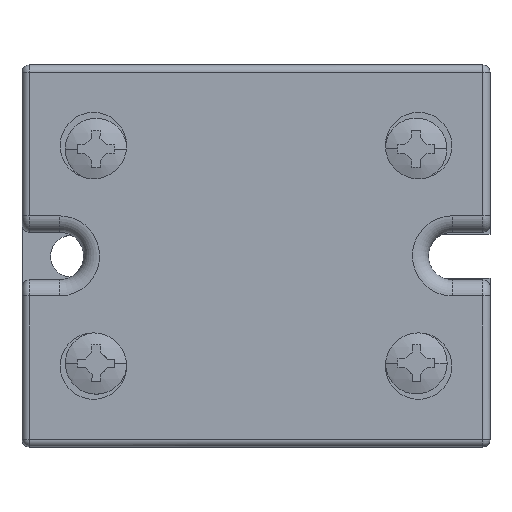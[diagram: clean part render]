
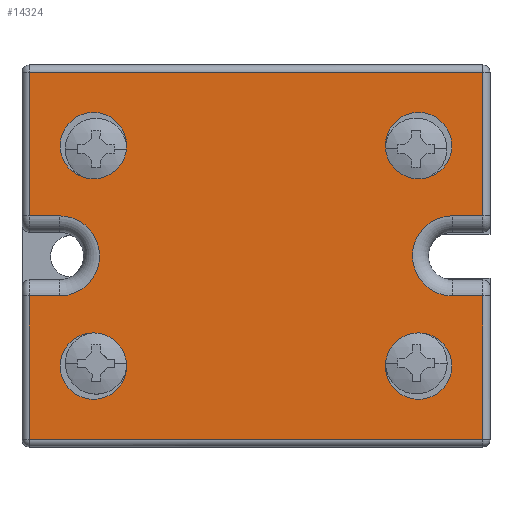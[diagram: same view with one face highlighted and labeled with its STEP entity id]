
A CAD part, top view. The second image highlights one B-rep face of the part: STEP entity #14324.
In plain terms, the highlighted planar face has unit normal (0, 0, 1).
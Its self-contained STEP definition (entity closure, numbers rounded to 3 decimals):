
#14289 = VERTEX_POINT('',#14290);
#14290 = CARTESIAN_POINT('',(10.152,11.057,15.15));
#14306 = VERTEX_POINT('',#14307);
#14307 = CARTESIAN_POINT('',(10.152,22.707,15.15));
#14314 = EDGE_CURVE('',#14306,#14289,#14315,.T.);
#14315 = LINE('',#14316,#14317);
#14316 = CARTESIAN_POINT('',(10.152,22.707,15.15));
#14317 = VECTOR('',#14318,1.);
#14318 = DIRECTION('',(0.,-1.,0.));
#14324 = ADVANCED_FACE('',(#14325,#14434,#14454,#14474,#14494),#14514,
  .T.);
#14325 = FACE_BOUND('',#14326,.F.);
#14326 = EDGE_LOOP('',(#14327,#14337,#14345,#14354,#14363,#14371,#14379,
    #14387,#14395,#14403,#14412,#14421,#14427,#14428));
#14327 = ORIENTED_EDGE('',*,*,#14328,.T.);
#14328 = EDGE_CURVE('',#14329,#14331,#14333,.T.);
#14329 = VERTEX_POINT('',#14330);
#14330 = CARTESIAN_POINT('',(-26.648,11.057,15.15));
#14331 = VERTEX_POINT('',#14332);
#14332 = CARTESIAN_POINT('',(-26.648,22.707,15.15));
#14333 = LINE('',#14334,#14335);
#14334 = CARTESIAN_POINT('',(-26.648,11.057,15.15));
#14335 = VECTOR('',#14336,1.);
#14336 = DIRECTION('',(0.,1.,0.));
#14337 = ORIENTED_EDGE('',*,*,#14338,.T.);
#14338 = EDGE_CURVE('',#14331,#14339,#14341,.T.);
#14339 = VERTEX_POINT('',#14340);
#14340 = CARTESIAN_POINT('',(-24.198,22.707,15.15));
#14341 = LINE('',#14342,#14343);
#14342 = CARTESIAN_POINT('',(-26.648,22.707,15.15));
#14343 = VECTOR('',#14344,1.);
#14344 = DIRECTION('',(1.,0.,0.));
#14345 = ORIENTED_EDGE('',*,*,#14346,.F.);
#14346 = EDGE_CURVE('',#14347,#14339,#14349,.T.);
#14347 = VERTEX_POINT('',#14348);
#14348 = CARTESIAN_POINT('',(-24.068,22.709,15.15));
#14349 = CIRCLE('',#14350,3.25);
#14350 = AXIS2_PLACEMENT_3D('',#14351,#14352,#14353);
#14351 = CARTESIAN_POINT('',(-24.198,25.957,15.15));
#14352 = DIRECTION('',(0.,0.,-1.));
#14353 = DIRECTION('',(0.04,-0.999,0.));
#14354 = ORIENTED_EDGE('',*,*,#14355,.F.);
#14355 = EDGE_CURVE('',#14356,#14347,#14358,.T.);
#14356 = VERTEX_POINT('',#14357);
#14357 = CARTESIAN_POINT('',(-24.198,29.207,15.15));
#14358 = CIRCLE('',#14359,3.25);
#14359 = AXIS2_PLACEMENT_3D('',#14360,#14361,#14362);
#14360 = CARTESIAN_POINT('',(-24.198,25.957,15.15));
#14361 = DIRECTION('',(0.,0.,-1.));
#14362 = DIRECTION('',(0.,1.,0.));
#14363 = ORIENTED_EDGE('',*,*,#14364,.T.);
#14364 = EDGE_CURVE('',#14356,#14365,#14367,.T.);
#14365 = VERTEX_POINT('',#14366);
#14366 = CARTESIAN_POINT('',(-26.648,29.207,15.15));
#14367 = LINE('',#14368,#14369);
#14368 = CARTESIAN_POINT('',(-24.198,29.207,15.15));
#14369 = VECTOR('',#14370,1.);
#14370 = DIRECTION('',(-1.,0.,0.));
#14371 = ORIENTED_EDGE('',*,*,#14372,.T.);
#14372 = EDGE_CURVE('',#14365,#14373,#14375,.T.);
#14373 = VERTEX_POINT('',#14374);
#14374 = CARTESIAN_POINT('',(-26.648,40.857,15.15));
#14375 = LINE('',#14376,#14377);
#14376 = CARTESIAN_POINT('',(-26.648,29.207,15.15));
#14377 = VECTOR('',#14378,1.);
#14378 = DIRECTION('',(0.,1.,0.));
#14379 = ORIENTED_EDGE('',*,*,#14380,.T.);
#14380 = EDGE_CURVE('',#14373,#14381,#14383,.T.);
#14381 = VERTEX_POINT('',#14382);
#14382 = CARTESIAN_POINT('',(10.152,40.857,15.15));
#14383 = LINE('',#14384,#14385);
#14384 = CARTESIAN_POINT('',(-26.648,40.857,15.15));
#14385 = VECTOR('',#14386,1.);
#14386 = DIRECTION('',(1.,0.,0.));
#14387 = ORIENTED_EDGE('',*,*,#14388,.T.);
#14388 = EDGE_CURVE('',#14381,#14389,#14391,.T.);
#14389 = VERTEX_POINT('',#14390);
#14390 = CARTESIAN_POINT('',(10.152,29.207,15.15));
#14391 = LINE('',#14392,#14393);
#14392 = CARTESIAN_POINT('',(10.152,40.857,15.15));
#14393 = VECTOR('',#14394,1.);
#14394 = DIRECTION('',(0.,-1.,0.));
#14395 = ORIENTED_EDGE('',*,*,#14396,.T.);
#14396 = EDGE_CURVE('',#14389,#14397,#14399,.T.);
#14397 = VERTEX_POINT('',#14398);
#14398 = CARTESIAN_POINT('',(7.702,29.207,15.15));
#14399 = LINE('',#14400,#14401);
#14400 = CARTESIAN_POINT('',(10.152,29.207,15.15));
#14401 = VECTOR('',#14402,1.);
#14402 = DIRECTION('',(-1.,0.,0.));
#14403 = ORIENTED_EDGE('',*,*,#14404,.F.);
#14404 = EDGE_CURVE('',#14405,#14397,#14407,.T.);
#14405 = VERTEX_POINT('',#14406);
#14406 = CARTESIAN_POINT('',(7.572,29.204,15.15));
#14407 = CIRCLE('',#14408,3.25);
#14408 = AXIS2_PLACEMENT_3D('',#14409,#14410,#14411);
#14409 = CARTESIAN_POINT('',(7.702,25.957,15.15));
#14410 = DIRECTION('',(0.,0.,-1.));
#14411 = DIRECTION('',(-0.04,0.999,0.));
#14412 = ORIENTED_EDGE('',*,*,#14413,.F.);
#14413 = EDGE_CURVE('',#14414,#14405,#14416,.T.);
#14414 = VERTEX_POINT('',#14415);
#14415 = CARTESIAN_POINT('',(7.702,22.707,15.15));
#14416 = CIRCLE('',#14417,3.25);
#14417 = AXIS2_PLACEMENT_3D('',#14418,#14419,#14420);
#14418 = CARTESIAN_POINT('',(7.702,25.957,15.15));
#14419 = DIRECTION('',(0.,0.,-1.));
#14420 = DIRECTION('',(0.,-1.,-0.));
#14421 = ORIENTED_EDGE('',*,*,#14422,.T.);
#14422 = EDGE_CURVE('',#14414,#14306,#14423,.T.);
#14423 = LINE('',#14424,#14425);
#14424 = CARTESIAN_POINT('',(7.702,22.707,15.15));
#14425 = VECTOR('',#14426,1.);
#14426 = DIRECTION('',(1.,0.,0.));
#14427 = ORIENTED_EDGE('',*,*,#14314,.T.);
#14428 = ORIENTED_EDGE('',*,*,#14429,.T.);
#14429 = EDGE_CURVE('',#14289,#14329,#14430,.T.);
#14430 = LINE('',#14431,#14432);
#14431 = CARTESIAN_POINT('',(10.152,11.057,15.15));
#14432 = VECTOR('',#14433,1.);
#14433 = DIRECTION('',(-1.,0.,0.));
#14434 = FACE_BOUND('',#14435,.F.);
#14435 = EDGE_LOOP('',(#14436,#14447));
#14436 = ORIENTED_EDGE('',*,*,#14437,.F.);
#14437 = EDGE_CURVE('',#14438,#14440,#14442,.T.);
#14438 = VERTEX_POINT('',#14439);
#14439 = CARTESIAN_POINT('',(-24.148,17.007,15.15));
#14440 = VERTEX_POINT('',#14441);
#14441 = CARTESIAN_POINT('',(-18.748,17.007,15.15));
#14442 = CIRCLE('',#14443,2.7);
#14443 = AXIS2_PLACEMENT_3D('',#14444,#14445,#14446);
#14444 = CARTESIAN_POINT('',(-21.448,17.007,15.15));
#14445 = DIRECTION('',(0.,0.,-1.));
#14446 = DIRECTION('',(-1.,0.,0.));
#14447 = ORIENTED_EDGE('',*,*,#14448,.F.);
#14448 = EDGE_CURVE('',#14440,#14438,#14449,.T.);
#14449 = CIRCLE('',#14450,2.7);
#14450 = AXIS2_PLACEMENT_3D('',#14451,#14452,#14453);
#14451 = CARTESIAN_POINT('',(-21.448,17.007,15.15));
#14452 = DIRECTION('',(0.,0.,-1.));
#14453 = DIRECTION('',(1.,0.,0.));
#14454 = FACE_BOUND('',#14455,.F.);
#14455 = EDGE_LOOP('',(#14456,#14467));
#14456 = ORIENTED_EDGE('',*,*,#14457,.F.);
#14457 = EDGE_CURVE('',#14458,#14460,#14462,.T.);
#14458 = VERTEX_POINT('',#14459);
#14459 = CARTESIAN_POINT('',(2.252,17.007,15.15));
#14460 = VERTEX_POINT('',#14461);
#14461 = CARTESIAN_POINT('',(7.652,17.007,15.15));
#14462 = CIRCLE('',#14463,2.7);
#14463 = AXIS2_PLACEMENT_3D('',#14464,#14465,#14466);
#14464 = CARTESIAN_POINT('',(4.952,17.007,15.15));
#14465 = DIRECTION('',(0.,0.,-1.));
#14466 = DIRECTION('',(-1.,0.,0.));
#14467 = ORIENTED_EDGE('',*,*,#14468,.F.);
#14468 = EDGE_CURVE('',#14460,#14458,#14469,.T.);
#14469 = CIRCLE('',#14470,2.7);
#14470 = AXIS2_PLACEMENT_3D('',#14471,#14472,#14473);
#14471 = CARTESIAN_POINT('',(4.952,17.007,15.15));
#14472 = DIRECTION('',(0.,0.,-1.));
#14473 = DIRECTION('',(1.,0.,0.));
#14474 = FACE_BOUND('',#14475,.F.);
#14475 = EDGE_LOOP('',(#14476,#14487));
#14476 = ORIENTED_EDGE('',*,*,#14477,.F.);
#14477 = EDGE_CURVE('',#14478,#14480,#14482,.T.);
#14478 = VERTEX_POINT('',#14479);
#14479 = CARTESIAN_POINT('',(2.252,34.907,15.15));
#14480 = VERTEX_POINT('',#14481);
#14481 = CARTESIAN_POINT('',(7.652,34.907,15.15));
#14482 = CIRCLE('',#14483,2.7);
#14483 = AXIS2_PLACEMENT_3D('',#14484,#14485,#14486);
#14484 = CARTESIAN_POINT('',(4.952,34.907,15.15));
#14485 = DIRECTION('',(0.,0.,-1.));
#14486 = DIRECTION('',(-1.,0.,0.));
#14487 = ORIENTED_EDGE('',*,*,#14488,.F.);
#14488 = EDGE_CURVE('',#14480,#14478,#14489,.T.);
#14489 = CIRCLE('',#14490,2.7);
#14490 = AXIS2_PLACEMENT_3D('',#14491,#14492,#14493);
#14491 = CARTESIAN_POINT('',(4.952,34.907,15.15));
#14492 = DIRECTION('',(0.,0.,-1.));
#14493 = DIRECTION('',(1.,0.,0.));
#14494 = FACE_BOUND('',#14495,.F.);
#14495 = EDGE_LOOP('',(#14496,#14507));
#14496 = ORIENTED_EDGE('',*,*,#14497,.F.);
#14497 = EDGE_CURVE('',#14498,#14500,#14502,.T.);
#14498 = VERTEX_POINT('',#14499);
#14499 = CARTESIAN_POINT('',(-24.148,34.907,15.15));
#14500 = VERTEX_POINT('',#14501);
#14501 = CARTESIAN_POINT('',(-18.748,34.907,15.15));
#14502 = CIRCLE('',#14503,2.7);
#14503 = AXIS2_PLACEMENT_3D('',#14504,#14505,#14506);
#14504 = CARTESIAN_POINT('',(-21.448,34.907,15.15));
#14505 = DIRECTION('',(0.,0.,-1.));
#14506 = DIRECTION('',(-1.,0.,0.));
#14507 = ORIENTED_EDGE('',*,*,#14508,.F.);
#14508 = EDGE_CURVE('',#14500,#14498,#14509,.T.);
#14509 = CIRCLE('',#14510,2.7);
#14510 = AXIS2_PLACEMENT_3D('',#14511,#14512,#14513);
#14511 = CARTESIAN_POINT('',(-21.448,34.907,15.15));
#14512 = DIRECTION('',(0.,0.,-1.));
#14513 = DIRECTION('',(1.,0.,0.));
#14514 = PLANE('',#14515);
#14515 = AXIS2_PLACEMENT_3D('',#14516,#14517,#14518);
#14516 = CARTESIAN_POINT('',(-8.248,25.957,15.15));
#14517 = DIRECTION('',(0.,0.,1.));
#14518 = DIRECTION('',(1.,0.,-0.));
